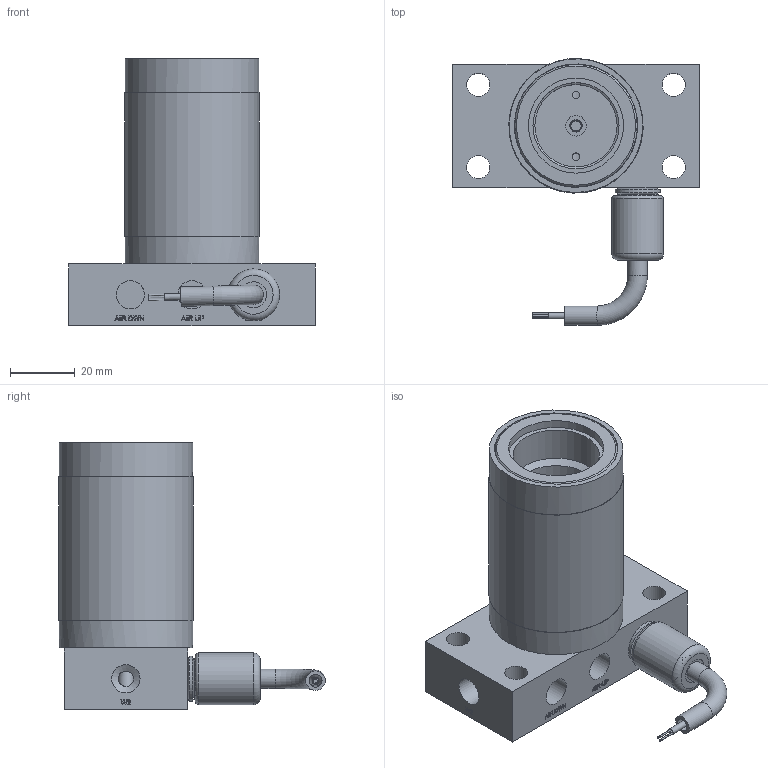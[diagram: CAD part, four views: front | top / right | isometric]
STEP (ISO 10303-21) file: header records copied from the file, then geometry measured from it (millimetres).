
FILE_DESCRIPTION(/* description */ ('ASSY,BODY,VF,LVDT,SXAR4,NHP'),/* implementation_level */ '2;1');
FILE_NAME(/* name */ 'X:\ASSY,BODY,VF,LVDT,SXAR4,NHP_0000594689.stp',/* time_stamp */ '2021-04-13T13:04:01-04:00',/* author */ ('-'),/* organization */ (''),/* preprocessor_version */ 'ST-DEVELOPER v17',/* originating_system */ 'Autodesk Inventor 2019',/* authorisation */ '');
FILE_SCHEMA (('AUTOMOTIVE_DESIGN { 1 0 10303 214 3 1 1 }'));
Length unit declared in the file: millimetre
Products named in the file (1): ASSY,BODY,VF,LVDT,SXAR4,NHP
Bounding box: 76.2 x 82.31 x 82.55 mm (x, y, z)
Volume: 106730.7 mm3; surface area: 55700.1 mm2
Topology: 2 solids, 11 shells, 1193 faces, 3175 edges, 2122 vertices
Faces by surface type: plane 597, bspline 399, cylinder 140, cone 41, torus 12, sphere 4
Full cylindrical faces by diameter (mm): 0.5 x4, 0.55 x4, 2 x1, 2.381 x2, 3.15 x2, 3.175 x2, 3.81 x1, 4 x3, 4.763 x4, 6 x3, 6.35 x1, 7.144 x4, 8 x1, 8.731 x8, 10 x1, 12.01 x1, 12.141 x1, 12.7 x2, 13.665 x1, 13.716 x1, 14 x2, 14.224 x1, 15.206 x1, 16 x1, 25.425 x1, 26.591 x1, 29.369 x1, 35.103 x3, 37.846 x4, 38.1 x2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
Entity records: 98171 total; most frequent: CARTESIAN_POINT 69978, ORIENTED_EDGE 6338, DIRECTION 4095, EDGE_CURVE 3169, VERTEX_POINT 2122, LINE 1703, VECTOR 1703, EDGE_LOOP 1347
